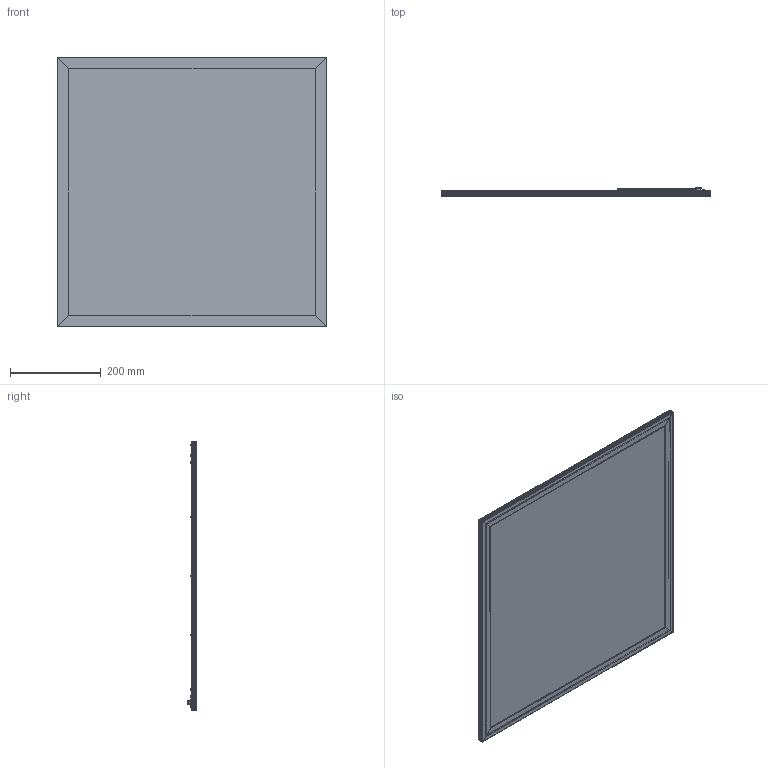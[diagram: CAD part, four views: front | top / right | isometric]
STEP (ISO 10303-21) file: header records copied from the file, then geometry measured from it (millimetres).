
FILE_DESCRIPTION (( 'STEP AP214' ), '1' );
FILE_NAME ('Flatpanel 595_UGR.STEP', '2019-09-25T06:46:25', ( '' ), ( '' ), 'SwSTEP 2.0', 'SolidWorks 2017', '' );
FILE_SCHEMA (( 'AUTOMOTIVE_DESIGN' ));
Length unit declared in the file: millimetre
Products named in the file (6): Flatpanel 595_UGR; SHURUXIAN1_1-1; A5-BEIBAN_7-1; 3X6_1_1-1; FlatPanelProfil_25_1_595; KSB_1-1
Assembly tree (32 placements, depth 2):
  Flatpanel 595_UGR
    FlatPanelProfil_25_1_595  x4
    KSB_1-1
    A5-BEIBAN_7-1
    SHURUXIAN1_1-1
    3X6_1_1-1  x25
Bounding box: 595 x 20 x 595 mm (x, y, z)
Volume: 730554.6 mm3; surface area: 1661522 mm2
Topology: 32 solids, 32 shells, 2227 faces, 6126 edges, 3942 vertices
Faces by surface type: bspline 1189, plane 589, cylinder 379, cone 70
Entity records: 12503 total; most frequent: CARTESIAN_POINT 3864, ORIENTED_EDGE 1854, DIRECTION 1629, EDGE_CURVE 927, VERTEX_POINT 606, AXIS2_PLACEMENT_3D 588, VECTOR 453, LINE 453
